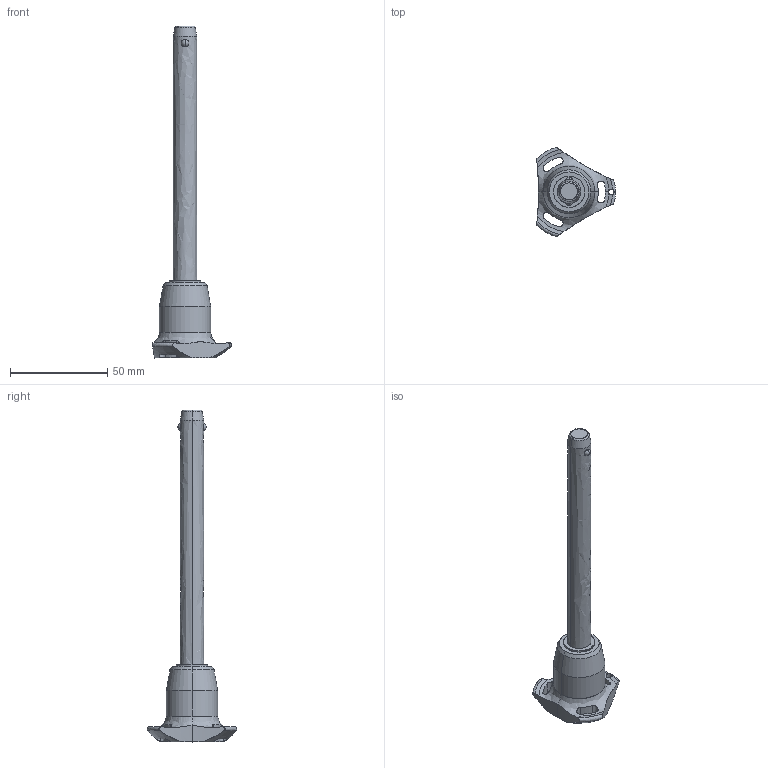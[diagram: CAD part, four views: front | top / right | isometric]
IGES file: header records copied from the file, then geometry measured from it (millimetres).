
Start section: SolidWorks IGES file using analytic representation for surfaces
Global section: file name: C:\Users\ianosborn\Desktop\QR1714_v2\QR1714_v2_20251112_IGES\QR1714.M12-120-S.igs; native system: SolidWorks 2019; preprocessor: SolidWorks 2019; author: IanOsborn; date: 251112.101854; units: millimetre
Bounding box: 40.5 x 45.88 x 170.3 mm (x, y, z)
Surface area: 10861.5 mm2 (no closed solid volume)
Topology: 0 solids, 0 shells, 65 faces, 1363 edges, 1359 vertices
Faces by surface type: revolution 50, bspline 15
